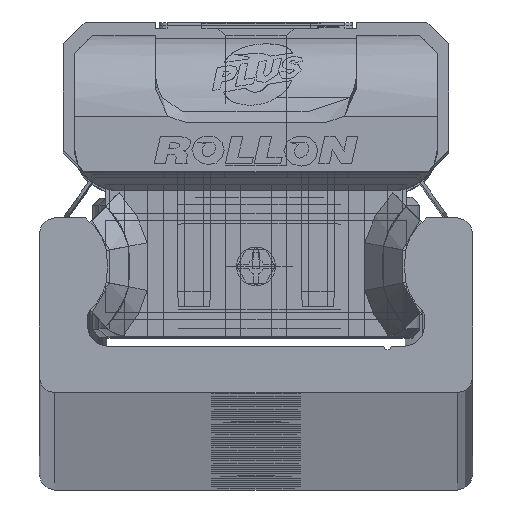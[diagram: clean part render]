
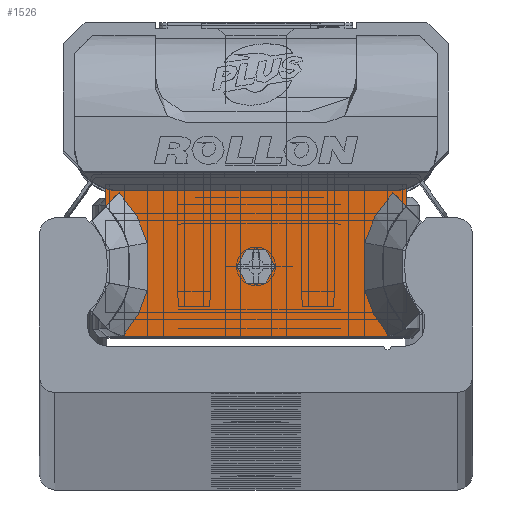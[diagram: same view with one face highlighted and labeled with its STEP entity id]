
A CAD part, top view. The second image highlights one B-rep face of the part: STEP entity #1526.
In plain terms, the highlighted planar face has unit normal (0, 0, 1) as drawn and (0, 0, -1) by its records, which use the part's own axes.
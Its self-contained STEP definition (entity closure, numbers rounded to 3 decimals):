
#1526 = ADVANCED_FACE( '', ( #3513, #3514 ), #3515, .F. );
#3513 = FACE_BOUND( '', #6065, .T. );
#3514 = FACE_OUTER_BOUND( '', #6066, .T. );
#3515 = PLANE( '', #6067 );
#6065 = EDGE_LOOP( '', ( #10331 ) );
#6066 = EDGE_LOOP( '', ( #10332, #10333, #10334, #10335, #10336, #10337, #10338, #10339, #10340, #10341, #10342, #10343, #10344, #10345 ) );
#6067 = AXIS2_PLACEMENT_3D( '', #10346, #10347, #10348 );
#10331 = ORIENTED_EDGE( '', *, *, #15060, .T. );
#10332 = ORIENTED_EDGE( '', *, *, #15061, .F. );
#10333 = ORIENTED_EDGE( '', *, *, #15062, .T. );
#10334 = ORIENTED_EDGE( '', *, *, #15063, .T. );
#10335 = ORIENTED_EDGE( '', *, *, #14135, .T. );
#10336 = ORIENTED_EDGE( '', *, *, #15064, .T. );
#10337 = ORIENTED_EDGE( '', *, *, #15065, .T. );
#10338 = ORIENTED_EDGE( '', *, *, #14725, .T. );
#10339 = ORIENTED_EDGE( '', *, *, #13847, .T. );
#10340 = ORIENTED_EDGE( '', *, *, #15066, .T. );
#10341 = ORIENTED_EDGE( '', *, *, #15067, .T. );
#10342 = ORIENTED_EDGE( '', *, *, #15068, .T. );
#10343 = ORIENTED_EDGE( '', *, *, #15069, .T. );
#10344 = ORIENTED_EDGE( '', *, *, #15070, .T. );
#10345 = ORIENTED_EDGE( '', *, *, #15071, .T. );
#10346 = CARTESIAN_POINT( '', ( 9.7, 4.89, -10.6 ) );
#10347 = DIRECTION( '', ( 0., 0., 1. ) );
#10348 = DIRECTION( '', ( 1., 0., 0. ) );
#13847 = EDGE_CURVE( '', #16425, #16423, #16426, .T. );
#14135 = EDGE_CURVE( '', #16899, #16909, #16911, .T. );
#14725 = EDGE_CURVE( '', #17869, #16425, #17870, .T. );
#15060 = EDGE_CURVE( '', #18360, #18360, #18361, .T. );
#15061 = EDGE_CURVE( '', #18362, #16735, #18363, .T. );
#15062 = EDGE_CURVE( '', #18362, #18364, #18365, .T. );
#15063 = EDGE_CURVE( '', #18364, #16899, #18366, .T. );
#15064 = EDGE_CURVE( '', #16909, #18367, #18368, .T. );
#15065 = EDGE_CURVE( '', #18367, #17869, #18369, .T. );
#15066 = EDGE_CURVE( '', #16423, #18370, #18371, .T. );
#15067 = EDGE_CURVE( '', #18370, #16196, #18372, .T. );
#15068 = EDGE_CURVE( '', #16196, #18373, #18374, .T. );
#15069 = EDGE_CURVE( '', #18373, #18375, #18376, .T. );
#15070 = EDGE_CURVE( '', #18375, #18377, #18378, .T. );
#15071 = EDGE_CURVE( '', #18377, #16735, #18379, .T. );
#16196 = VERTEX_POINT( '', #19817 );
#16423 = VERTEX_POINT( '', #20181 );
#16425 = VERTEX_POINT( '', #20184 );
#16426 = B_SPLINE_CURVE_WITH_KNOTS( '', 2, ( #20185, #20186, #20187 ), .UNSPECIFIED., .F., .F., ( 3, 3 ), ( 0., 1. ), .UNSPECIFIED. );
#16735 = VERTEX_POINT( '', #20613 );
#16899 = VERTEX_POINT( '', #20846 );
#16909 = VERTEX_POINT( '', #20858 );
#16911 = CIRCLE( '', #20861, 2.8 );
#17869 = VERTEX_POINT( '', #22162 );
#17870 = B_SPLINE_CURVE_WITH_KNOTS( '', 2, ( #22163, #22164, #22165, #22166, #22167 ), .UNSPECIFIED., .F., .F., ( 3, 2, 3 ), ( 0., 0.5, 1. ), .UNSPECIFIED. );
#18360 = VERTEX_POINT( '', #22855 );
#18361 = CIRCLE( '', #22856, 1.25 );
#18362 = VERTEX_POINT( '', #22857 );
#18363 = LINE( '', #22858, #22859 );
#18364 = VERTEX_POINT( '', #22860 );
#18365 = CIRCLE( '', #22861, 2.8 );
#18366 = LINE( '', #22862, #22863 );
#18367 = VERTEX_POINT( '', #22864 );
#18368 = LINE( '', #22865, #22866 );
#18369 = LINE( '', #22867, #22868 );
#18370 = VERTEX_POINT( '', #22869 );
#18371 = B_SPLINE_CURVE_WITH_KNOTS( '', 2, ( #22870, #22871, #22872 ), .UNSPECIFIED., .F., .F., ( 3, 3 ), ( 0., 1. ), .UNSPECIFIED. );
#18372 = LINE( '', #22873, #22874 );
#18373 = VERTEX_POINT( '', #22875 );
#18374 = B_SPLINE_CURVE_WITH_KNOTS( '', 2, ( #22876, #22877, #22878 ), .UNSPECIFIED., .F., .F., ( 3, 3 ), ( 0.1, 1. ), .UNSPECIFIED. );
#18375 = VERTEX_POINT( '', #22879 );
#18376 = B_SPLINE_CURVE_WITH_KNOTS( '', 2, ( #22880, #22881, #22882 ), .UNSPECIFIED., .F., .F., ( 3, 3 ), ( 0., 1. ), .UNSPECIFIED. );
#18377 = VERTEX_POINT( '', #22883 );
#18378 = B_SPLINE_CURVE_WITH_KNOTS( '', 2, ( #22884, #22885, #22886 ), .UNSPECIFIED., .F., .F., ( 3, 3 ), ( 0., 1. ), .UNSPECIFIED. );
#18379 = LINE( '', #22887, #22888 );
#19817 = CARTESIAN_POINT( '', ( -8.59, -4.893, -10.6 ) );
#20181 = CARTESIAN_POINT( '', ( 7.031, -1.944, -10.6 ) );
#20184 = CARTESIAN_POINT( '', ( 7.031, 1.144, -10.6 ) );
#20185 = CARTESIAN_POINT( '', ( 7.031, 1.144, -10.6 ) );
#20186 = CARTESIAN_POINT( '', ( 6.929, -0.4, -10.6 ) );
#20187 = CARTESIAN_POINT( '', ( 7.031, -1.944, -10.6 ) );
#20613 = CARTESIAN_POINT( '', ( -9.7, 3.494, -10.6 ) );
#20846 = CARTESIAN_POINT( '', ( 8.95, 4.51, -10.6 ) );
#20858 = CARTESIAN_POINT( '', ( 9.7, 4.612, -10.6 ) );
#20861 = AXIS2_PLACEMENT_3D( '', #25092, #25093, #25094 );
#22162 = CARTESIAN_POINT( '', ( 8.853, 4.366, -10.6 ) );
#22163 = CARTESIAN_POINT( '', ( 8.853, 4.366, -10.6 ) );
#22164 = CARTESIAN_POINT( '', ( 8.182, 3.708, -10.6 ) );
#22165 = CARTESIAN_POINT( '', ( 7.715, 2.883, -10.6 ) );
#22166 = CARTESIAN_POINT( '', ( 7.249, 2.058, -10.6 ) );
#22167 = CARTESIAN_POINT( '', ( 7.031, 1.144, -10.6 ) );
#22855 = CARTESIAN_POINT( '', ( 1.25, -0.39, -10.6 ) );
#22856 = AXIS2_PLACEMENT_3D( '', #26525, #26526, #26527 );
#22857 = CARTESIAN_POINT( '', ( -9.7, 4.612, -10.6 ) );
#22858 = CARTESIAN_POINT( '', ( -9.7, 4.89, -10.6 ) );
#22859 = VECTOR( '', #26528, 1000. );
#22860 = CARTESIAN_POINT( '', ( -8.95, 4.51, -10.6 ) );
#22861 = AXIS2_PLACEMENT_3D( '', #26529, #26530, #26531 );
#22862 = CARTESIAN_POINT( '', ( 9.7, 4.51, -10.6 ) );
#22863 = VECTOR( '', #26532, 1000. );
#22864 = CARTESIAN_POINT( '', ( 9.7, 3.497, -10.6 ) );
#22865 = CARTESIAN_POINT( '', ( 9.7, 4.89, -10.6 ) );
#22866 = VECTOR( '', #26533, 1000. );
#22867 = CARTESIAN_POINT( '', ( 9.7, 3.501, -10.6 ) );
#22868 = VECTOR( '', #26534, 1000. );
#22869 = CARTESIAN_POINT( '', ( 8.59, -4.893, -10.6 ) );
#22870 = CARTESIAN_POINT( '', ( 7.031, -1.944, -10.6 ) );
#22871 = CARTESIAN_POINT( '', ( 7.429, -3.615, -10.6 ) );
#22872 = CARTESIAN_POINT( '', ( 8.588, -4.89, -10.6 ) );
#22873 = CARTESIAN_POINT( '', ( 9.7, -4.89, -10.6 ) );
#22874 = VECTOR( '', #26535, 1000. );
#22875 = CARTESIAN_POINT( '', ( -7.031, -1.944, -10.6 ) );
#22876 = CARTESIAN_POINT( '', ( -8.587, -4.89, -10.6 ) );
#22877 = CARTESIAN_POINT( '', ( -7.432, -3.63, -10.6 ) );
#22878 = CARTESIAN_POINT( '', ( -7.031, -1.944, -10.6 ) );
#22879 = CARTESIAN_POINT( '', ( -7.031, 1.144, -10.6 ) );
#22880 = CARTESIAN_POINT( '', ( -7.031, -1.944, -10.6 ) );
#22881 = CARTESIAN_POINT( '', ( -6.929, -0.4, -10.6 ) );
#22882 = CARTESIAN_POINT( '', ( -7.031, 1.144, -10.6 ) );
#22883 = CARTESIAN_POINT( '', ( -8.853, 4.366, -10.6 ) );
#22884 = CARTESIAN_POINT( '', ( -7.031, 1.144, -10.6 ) );
#22885 = CARTESIAN_POINT( '', ( -7.477, 3.018, -10.6 ) );
#22886 = CARTESIAN_POINT( '', ( -8.853, 4.366, -10.6 ) );
#22887 = CARTESIAN_POINT( '', ( -8.853, 4.366, -10.6 ) );
#22888 = VECTOR( '', #26536, 1000. );
#25092 = CARTESIAN_POINT( '', ( 8.95, 7.31, -10.6 ) );
#25093 = DIRECTION( '', ( 0., 0., 1. ) );
#25094 = DIRECTION( '', ( 1., 0., 0. ) );
#26525 = CARTESIAN_POINT( '', ( 0., -0.39, -10.6 ) );
#26526 = DIRECTION( '', ( 0., 0., 1. ) );
#26527 = DIRECTION( '', ( 1., 0., 0. ) );
#26528 = DIRECTION( '', ( 0., -1., 0. ) );
#26529 = CARTESIAN_POINT( '', ( -8.95, 7.31, -10.6 ) );
#26530 = DIRECTION( '', ( 0., 0., 1. ) );
#26531 = DIRECTION( '', ( 1., 0., 0. ) );
#26532 = DIRECTION( '', ( 1., 0., 0. ) );
#26533 = DIRECTION( '', ( 0., -1., 0. ) );
#26534 = DIRECTION( '', ( -0.7, 0.714, 0. ) );
#26535 = DIRECTION( '', ( -1., 0., 0. ) );
#26536 = DIRECTION( '', ( -0.7, -0.714, 0. ) );
